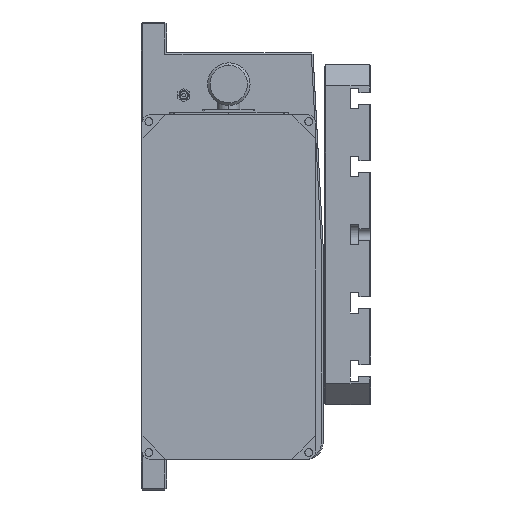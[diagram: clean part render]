
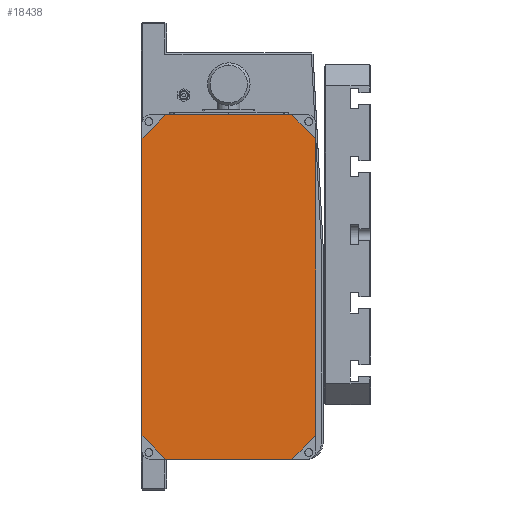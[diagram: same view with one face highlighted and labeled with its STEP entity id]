
A CAD part, left-side view. The second image highlights one B-rep face of the part: STEP entity #18438.
In plain terms, the highlighted planar face has unit normal (-1, 0, 0).
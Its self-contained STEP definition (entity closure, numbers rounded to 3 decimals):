
#1714 = CARTESIAN_POINT ( 'NONE',  ( -414.097, 78.638, 666. ) ) ;
#1866 = DIRECTION ( 'NONE',  ( 0., -0.707, 0.707 ) ) ;
#2405 = VECTOR ( 'NONE', #1866, 1000. ) ;
#2586 = CARTESIAN_POINT ( 'NONE',  ( -414.097, -69.362, 261. ) ) ;
#2902 = DIRECTION ( 'NONE',  ( 0., 0., -1. ) ) ;
#3292 = EDGE_LOOP ( 'NONE', ( #4056, #19941, #19005, #8562, #8377, #19059, #5625, #10153 ) ) ;
#4056 = ORIENTED_EDGE ( 'NONE', *, *, #6127, .F. ) ;
#4299 = EDGE_CURVE ( 'NONE', #4558, #13653, #19596, .T. ) ;
#4558 = VERTEX_POINT ( 'NONE', #20153 ) ;
#4899 = CARTESIAN_POINT ( 'NONE',  ( -414.097, 106.638, 638. ) ) ;
#5107 = VERTEX_POINT ( 'NONE', #9363 ) ;
#5357 = LINE ( 'NONE', #14076, #6861 ) ;
#5466 = DIRECTION ( 'NONE',  ( -1., 0., 0. ) ) ;
#5588 = CARTESIAN_POINT ( 'NONE',  ( -414.097, 106.638, 289. ) ) ;
#5625 = ORIENTED_EDGE ( 'NONE', *, *, #18174, .F. ) ;
#5685 = DIRECTION ( 'NONE',  ( 0., -0.707, -0.707 ) ) ;
#5795 = DIRECTION ( 'NONE',  ( 0., 0.707, -0.707 ) ) ;
#6127 = EDGE_CURVE ( 'NONE', #18505, #16898, #10169, .T. ) ;
#6441 = DIRECTION ( 'NONE',  ( 0., 0.707, 0.707 ) ) ;
#6724 = LINE ( 'NONE', #9883, #11762 ) ;
#6765 = FACE_OUTER_BOUND ( 'NONE', #3292, .T. ) ;
#6861 = VECTOR ( 'NONE', #2902, 1000. ) ;
#6942 = DIRECTION ( 'NONE',  ( 0., 1., 0. ) ) ;
#7009 = CARTESIAN_POINT ( 'NONE',  ( -414.097, 4.638, 463.5 ) ) ;
#7712 = CARTESIAN_POINT ( 'NONE',  ( -414.097, 78.638, 261. ) ) ;
#7798 = VERTEX_POINT ( 'NONE', #5588 ) ;
#8028 = VECTOR ( 'NONE', #11717, 1000. ) ;
#8140 = PLANE ( 'NONE',  #19093 ) ;
#8182 = CARTESIAN_POINT ( 'NONE',  ( -414.097, -69.362, 666. ) ) ;
#8293 = LINE ( 'NONE', #19780, #8028 ) ;
#8377 = ORIENTED_EDGE ( 'NONE', *, *, #12924, .F. ) ;
#8562 = ORIENTED_EDGE ( 'NONE', *, *, #18508, .T. ) ;
#8994 = VECTOR ( 'NONE', #12314, 1000. ) ;
#9363 = CARTESIAN_POINT ( 'NONE',  ( -414.097, -69.362, 261. ) ) ;
#9529 = VERTEX_POINT ( 'NONE', #8182 ) ;
#9687 = CARTESIAN_POINT ( 'NONE',  ( -414.097, -97.362, 638. ) ) ;
#9883 = CARTESIAN_POINT ( 'NONE',  ( -414.097, 78.638, 261. ) ) ;
#10153 = ORIENTED_EDGE ( 'NONE', *, *, #12279, .T. ) ;
#10169 = LINE ( 'NONE', #1714, #2405 ) ;
#11096 = CARTESIAN_POINT ( 'NONE',  ( -414.097, -97.362, 666. ) ) ;
#11371 = LINE ( 'NONE', #2586, #15174 ) ;
#11717 = DIRECTION ( 'NONE',  ( 0., -1., 0. ) ) ;
#11762 = VECTOR ( 'NONE', #6441, 1000. ) ;
#12165 = CARTESIAN_POINT ( 'NONE',  ( -414.097, 78.638, 666. ) ) ;
#12279 = EDGE_CURVE ( 'NONE', #9529, #16898, #13518, .T. ) ;
#12314 = DIRECTION ( 'NONE',  ( 0., 0., 1. ) ) ;
#12327 = LINE ( 'NONE', #15335, #19920 ) ;
#12924 = EDGE_CURVE ( 'NONE', #4558, #5107, #11371, .T. ) ;
#13518 = LINE ( 'NONE', #11096, #16539 ) ;
#13653 = VERTEX_POINT ( 'NONE', #9687 ) ;
#14076 = CARTESIAN_POINT ( 'NONE',  ( -414.097, 106.638, 666. ) ) ;
#14270 = DIRECTION ( 'NONE',  ( 0., 1., 0. ) ) ;
#15174 = VECTOR ( 'NONE', #5795, 1000. ) ;
#15335 = CARTESIAN_POINT ( 'NONE',  ( -414.097, -69.362, 666. ) ) ;
#16518 = EDGE_CURVE ( 'NONE', #18505, #7798, #5357, .T. ) ;
#16539 = VECTOR ( 'NONE', #14270, 1000. ) ;
#16898 = VERTEX_POINT ( 'NONE', #12165 ) ;
#17119 = CARTESIAN_POINT ( 'NONE',  ( -414.097, -97.362, 666. ) ) ;
#18174 = EDGE_CURVE ( 'NONE', #9529, #13653, #12327, .T. ) ;
#18189 = VERTEX_POINT ( 'NONE', #7712 ) ;
#18438 = ADVANCED_FACE ( 'NONE', ( #6765 ), #8140, .T. ) ;
#18505 = VERTEX_POINT ( 'NONE', #4899 ) ;
#18508 = EDGE_CURVE ( 'NONE', #18189, #5107, #8293, .T. ) ;
#19005 = ORIENTED_EDGE ( 'NONE', *, *, #20127, .F. ) ;
#19059 = ORIENTED_EDGE ( 'NONE', *, *, #4299, .T. ) ;
#19093 = AXIS2_PLACEMENT_3D ( 'NONE', #7009, #5466, #6942 ) ;
#19596 = LINE ( 'NONE', #17119, #8994 ) ;
#19780 = CARTESIAN_POINT ( 'NONE',  ( -414.097, -97.362, 261. ) ) ;
#19920 = VECTOR ( 'NONE', #5685, 1000. ) ;
#19941 = ORIENTED_EDGE ( 'NONE', *, *, #16518, .T. ) ;
#20127 = EDGE_CURVE ( 'NONE', #18189, #7798, #6724, .T. ) ;
#20153 = CARTESIAN_POINT ( 'NONE',  ( -414.097, -97.362, 289. ) ) ;
